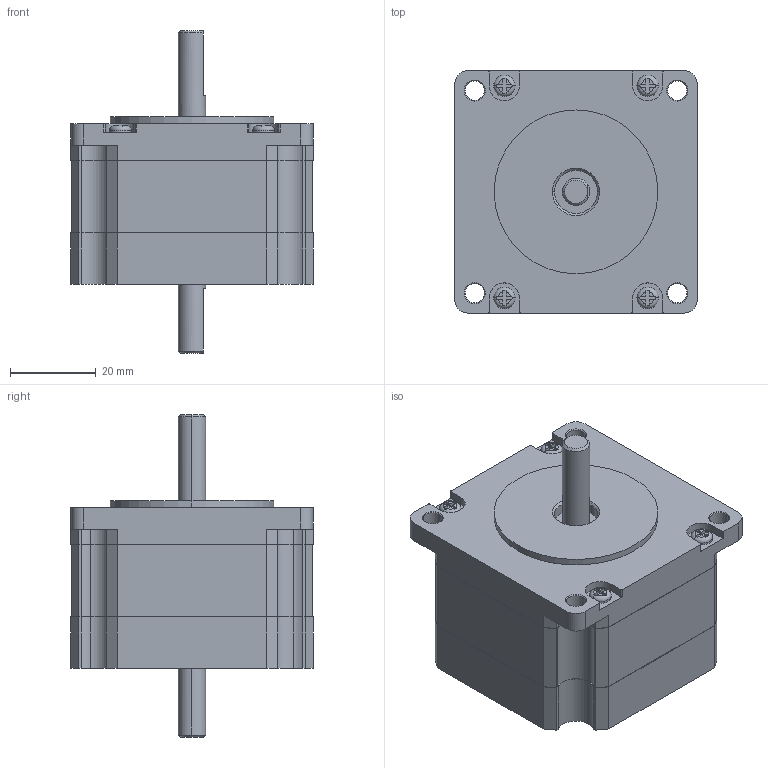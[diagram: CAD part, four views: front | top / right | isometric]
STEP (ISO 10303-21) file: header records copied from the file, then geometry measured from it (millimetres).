
FILE_DESCRIPTION (( 'STEP AP214' ), '1' );
FILE_NAME ('TS3653N11.STEP', '2011-09-15T08:52:28', ( '' ), ( '' ), 'SwSTEP 2.0', 'SolidWorks 2010', '' );
FILE_SCHEMA (( 'AUTOMOTIVE_DESIGN' ));
Length unit declared in the file: millimetre
Products named in the file (1): TS3653N11
Bounding box: 56.4 x 56.4 x 75 mm (x, y, z)
Volume: 110712.6 mm3; surface area: 16022.3 mm2
Topology: 1 solids, 1 shells, 252 faces, 684 edges, 445 vertices
Faces by surface type: plane 141, cylinder 80, cone 23, torus 8
Entity records: 8375 total; most frequent: CARTESIAN_POINT 1554, DIRECTION 1369, ORIENTED_EDGE 1368, EDGE_CURVE 684, AXIS2_PLACEMENT_3D 468, VERTEX_POINT 445, LINE 433, VECTOR 433
